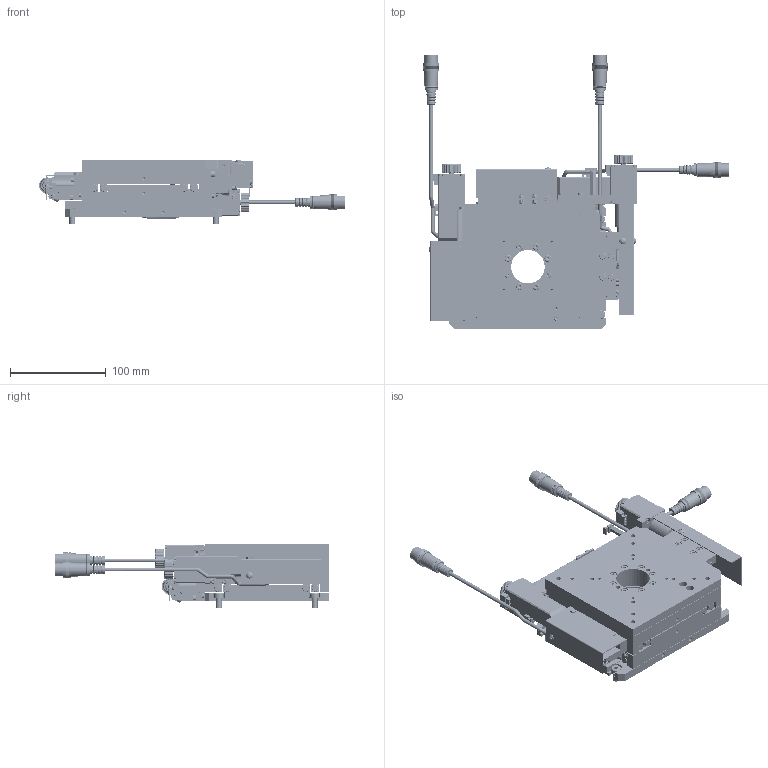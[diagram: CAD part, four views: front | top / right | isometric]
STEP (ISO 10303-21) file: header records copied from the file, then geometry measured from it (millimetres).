
FILE_DESCRIPTION( (''), '2;1');
FILE_NAME ('DR117704-0001-000-00.stp','2021-04-28T15:29:53',(''),(''),'spGate 15.6.6','','');
FILE_SCHEMA (('AUTOMOTIVE_DESIGN'));
Length unit declared in the file: millimetre
Products named in the file (40): Assembly; DR117704-0001-000-00-prt0; DR117704-0001-000-00-prt1; DR117704-0001-000-00-prt2; DR117704-0001-000-00-prt3; DR117704-0001-000-00-prt4; DR117704-0001-000-00-prt5; DR117704-0001-000-00-prt6; DR117704-0001-000-00-prt7; DR117704-0001-000-00-prt8; DR117704-0001-000-00-prt9; DR117704-0001-000-00-prt10; DR117704-0001-000-00-prt11; DR117704-0001-000-00-prt12; DR117704-0001-000-00-prt13; DR117704-0001-000-00-prt14; DR117704-0001-000-00-prt15; DR117704-0001-000-00-prt16; DR117704-0001-000-00-prt17; DR117704-0001-000-00-prt18; DR117704-0001-000-00-prt19; DR117704-0001-000-00-prt20; DR117704-0001-000-00-prt21; DR117704-0001-000-00-prt22; DR117704-0001-000-00-prt23; DR117704-0001-000-00-prt24; DR117704-0001-000-00-prt25; DR117704-0001-000-00-prt26; DR117704-0001-000-00-prt27; DR117704-0001-000-00-prt28; DR117704-0001-000-00-prt29; DR117704-0001-000-00-prt30; DR117704-0001-000-00-prt31; DR117704-0001-000-00-prt32; DR117704-0001-000-00-prt33; DR117704-0001-000-00-prt34; DR117704-0001-000-00-prt35; DR117704-0001-000-00-prt36; DR117704-0001-000-00-prt37; DR117704-0001-000-00-prt38
Assembly tree (39 placements, depth 2):
  Assembly
    DR117704-0001-000-00-prt0
    DR117704-0001-000-00-prt1
    DR117704-0001-000-00-prt2
    DR117704-0001-000-00-prt3
    DR117704-0001-000-00-prt4
    DR117704-0001-000-00-prt5
    DR117704-0001-000-00-prt6
    DR117704-0001-000-00-prt7
    DR117704-0001-000-00-prt8
    DR117704-0001-000-00-prt9
    DR117704-0001-000-00-prt10
    DR117704-0001-000-00-prt11
    DR117704-0001-000-00-prt12
    DR117704-0001-000-00-prt13
    DR117704-0001-000-00-prt14
    DR117704-0001-000-00-prt15
    DR117704-0001-000-00-prt16
    DR117704-0001-000-00-prt17
    DR117704-0001-000-00-prt18
    DR117704-0001-000-00-prt19
    DR117704-0001-000-00-prt20
    DR117704-0001-000-00-prt21
    DR117704-0001-000-00-prt22
    DR117704-0001-000-00-prt23
    DR117704-0001-000-00-prt24
    DR117704-0001-000-00-prt25
    DR117704-0001-000-00-prt26
    DR117704-0001-000-00-prt27
    DR117704-0001-000-00-prt28
    DR117704-0001-000-00-prt29
    DR117704-0001-000-00-prt30
    DR117704-0001-000-00-prt31
    DR117704-0001-000-00-prt32
    DR117704-0001-000-00-prt33
    DR117704-0001-000-00-prt34
    DR117704-0001-000-00-prt35
    DR117704-0001-000-00-prt36
    DR117704-0001-000-00-prt37
    DR117704-0001-000-00-prt38
Bounding box: 319.59 x 286.14 x 67.4 mm (x, y, z)
Volume: 1234807.5 mm3; surface area: 357818.7 mm2
Topology: 14 solids, 16 shells, 7391 faces, 18510 edges, 11309 vertices
Faces by surface type: plane 4951, cylinder 1248, bspline 1172, sphere 20
Entity records: 375759 total; most frequent: CARTESIAN_POINT 61973, ORIENTED_EDGE 36364, DIRECTION 31591, COLOUR_RGB 25606, PRESENTATION_STYLE_ASSIGNMENT 25606, STYLED_ITEM 25606, DRAUGHTING_PRE_DEFINED_CURVE_FONT 18209, CURVE_STYLE 18209
